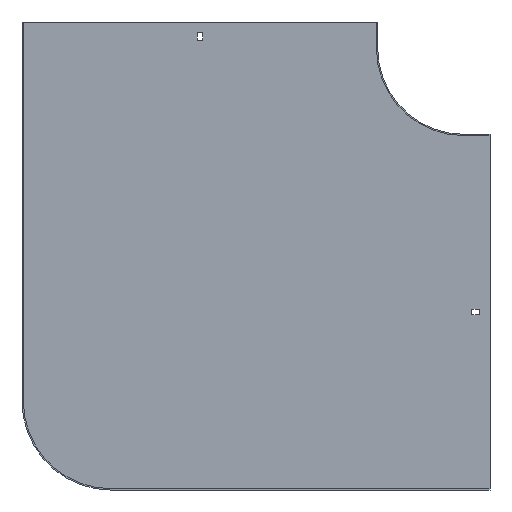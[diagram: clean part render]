
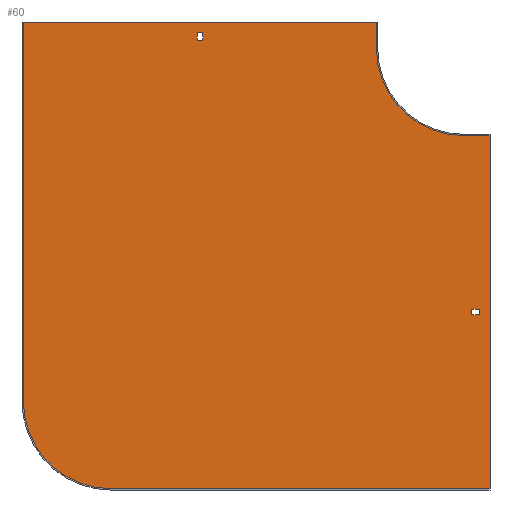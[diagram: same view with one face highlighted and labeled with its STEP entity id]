
A CAD part, front view. The second image highlights one B-rep face of the part: STEP entity #60.
In plain terms, the highlighted planar face has unit normal (0, -1, 0).
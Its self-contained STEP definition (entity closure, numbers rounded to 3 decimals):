
#1 = CARTESIAN_POINT ( 'NONE',  ( -305.25, -1.5, 9. ) ) ;
#3 = EDGE_CURVE ( 'NONE', #647, #610, #348, .T. ) ;
#4 = DIRECTION ( 'NONE',  ( -1., 0., 0. ) ) ;
#7 = CARTESIAN_POINT ( 'NONE',  ( 30., -1.5, -100. ) ) ;
#11 = DIRECTION ( 'NONE',  ( 0., 1., 0. ) ) ;
#27 = PLANE ( 'NONE',  #778 ) ;
#46 = VECTOR ( 'NONE', #410, 1000. ) ;
#48 = VERTEX_POINT ( 'NONE', #101 ) ;
#59 = ORIENTED_EDGE ( 'NONE', *, *, #236, .F. ) ;
#60 = ADVANCED_FACE ( 'NONE', ( #88, #570, #821 ), #27, .T. ) ;
#69 = CARTESIAN_POINT ( 'NONE',  ( 9., -1.5, 0. ) ) ;
#70 = CARTESIAN_POINT ( 'NONE',  ( -100., -1.5, 30. ) ) ;
#76 = DIRECTION ( 'NONE',  ( 0., 0., -1. ) ) ;
#79 = LINE ( 'NONE', #357, #429 ) ;
#88 = FACE_BOUND ( 'NONE', #777, .T. ) ;
#90 = DIRECTION ( 'NONE',  ( 1., 0., 0. ) ) ;
#92 = CARTESIAN_POINT ( 'NONE',  ( 0., -1.5, 0. ) ) ;
#95 = VECTOR ( 'NONE', #4, 1000. ) ;
#101 = CARTESIAN_POINT ( 'NONE',  ( -404., -1.5, -504. ) ) ;
#104 = ORIENTED_EDGE ( 'NONE', *, *, #394, .F. ) ;
#126 = CARTESIAN_POINT ( 'NONE',  ( 30., -1.5, -504. ) ) ;
#135 = EDGE_CURVE ( 'NONE', #810, #48, #331, .T. ) ;
#138 = VECTOR ( 'NONE', #311, 1000. ) ;
#144 = CARTESIAN_POINT ( 'NONE',  ( -100., -1.5, 30. ) ) ;
#147 = DIRECTION ( 'NONE',  ( 1., 0., 0. ) ) ;
#149 = LINE ( 'NONE', #70, #361 ) ;
#153 = EDGE_CURVE ( 'NONE', #501, #658, #513, .T. ) ;
#155 = VECTOR ( 'NONE', #725, 1000. ) ;
#156 = LINE ( 'NONE', #427, #767 ) ;
#168 = CARTESIAN_POINT ( 'NONE',  ( 30., -1.5, -98.5 ) ) ;
#175 = CARTESIAN_POINT ( 'NONE',  ( 0., -1.5, -305.25 ) ) ;
#177 = VECTOR ( 'NONE', #324, 1000. ) ;
#194 = CARTESIAN_POINT ( 'NONE',  ( -100., -1.5, 0. ) ) ;
#201 = EDGE_CURVE ( 'NONE', #48, #569, #372, .T. ) ;
#206 = DIRECTION ( 'NONE',  ( 0., 0., -1. ) ) ;
#208 = ORIENTED_EDGE ( 'NONE', *, *, #3, .F. ) ;
#209 = CARTESIAN_POINT ( 'NONE',  ( -404., -1.5, -404. ) ) ;
#215 = CARTESIAN_POINT ( 'NONE',  ( 0., -1.5, 0. ) ) ;
#236 = EDGE_CURVE ( 'NONE', #621, #731, #780, .T. ) ;
#241 = ORIENTED_EDGE ( 'NONE', *, *, #634, .T. ) ;
#255 = CARTESIAN_POINT ( 'NONE',  ( -305.25, -1.5, 0. ) ) ;
#261 = DIRECTION ( 'NONE',  ( 0., 0., -1. ) ) ;
#265 = ORIENTED_EDGE ( 'NONE', *, *, #625, .F. ) ;
#270 = VERTEX_POINT ( 'NONE', #194 ) ;
#271 = CARTESIAN_POINT ( 'NONE',  ( -298.75, -1.5, 0. ) ) ;
#274 = CARTESIAN_POINT ( 'NONE',  ( 0., -1.5, -100. ) ) ;
#289 = DIRECTION ( 'NONE',  ( 1., 0., 0. ) ) ;
#311 = DIRECTION ( 'NONE',  ( -1., 0., 0. ) ) ;
#315 = ORIENTED_EDGE ( 'NONE', *, *, #135, .F. ) ;
#322 = VECTOR ( 'NONE', #289, 1000. ) ;
#324 = DIRECTION ( 'NONE',  ( 0., 0., 1. ) ) ;
#331 = LINE ( 'NONE', #126, #138 ) ;
#344 = DIRECTION ( 'NONE',  ( 0., 0., -1. ) ) ;
#346 = EDGE_CURVE ( 'NONE', #658, #621, #477, .T. ) ;
#348 = LINE ( 'NONE', #274, #155 ) ;
#351 = VECTOR ( 'NONE', #76, 1000. ) ;
#352 = EDGE_CURVE ( 'NONE', #270, #647, #589, .T. ) ;
#353 = CARTESIAN_POINT ( 'NONE',  ( -305.25, -1.5, 18. ) ) ;
#357 = CARTESIAN_POINT ( 'NONE',  ( -505.5, -1.5, 30. ) ) ;
#358 = CARTESIAN_POINT ( 'NONE',  ( 9., -1.5, -305.25 ) ) ;
#361 = VECTOR ( 'NONE', #344, 1000. ) ;
#363 = CARTESIAN_POINT ( 'NONE',  ( 0., -1.5, -100. ) ) ;
#372 = CIRCLE ( 'NONE', #849, 100. ) ;
#384 = EDGE_CURVE ( 'NONE', #484, #531, #793, .T. ) ;
#389 = EDGE_LOOP ( 'NONE', ( #241, #547, #560, #836 ) ) ;
#391 = VERTEX_POINT ( 'NONE', #353 ) ;
#394 = EDGE_CURVE ( 'NONE', #397, #598, #79, .T. ) ;
#397 = VERTEX_POINT ( 'NONE', #421 ) ;
#407 = CARTESIAN_POINT ( 'NONE',  ( 0., -1.5, 9. ) ) ;
#410 = DIRECTION ( 'NONE',  ( -1., 0., 0. ) ) ;
#421 = CARTESIAN_POINT ( 'NONE',  ( -504., -1.5, 30. ) ) ;
#427 = CARTESIAN_POINT ( 'NONE',  ( 0., -1.5, 18. ) ) ;
#429 = VECTOR ( 'NONE', #147, 1000. ) ;
#432 = ORIENTED_EDGE ( 'NONE', *, *, #448, .F. ) ;
#438 = DIRECTION ( 'NONE',  ( 0., -1., 0. ) ) ;
#448 = EDGE_CURVE ( 'NONE', #731, #501, #818, .T. ) ;
#459 = AXIS2_PLACEMENT_3D ( 'NONE', #215, #859, #206 ) ;
#460 = LINE ( 'NONE', #255, #485 ) ;
#467 = ORIENTED_EDGE ( 'NONE', *, *, #201, .F. ) ;
#477 = LINE ( 'NONE', #659, #95 ) ;
#481 = ORIENTED_EDGE ( 'NONE', *, *, #676, .F. ) ;
#484 = VERTEX_POINT ( 'NONE', #693 ) ;
#485 = VECTOR ( 'NONE', #708, 1000. ) ;
#501 = VERTEX_POINT ( 'NONE', #532 ) ;
#508 = VECTOR ( 'NONE', #261, 1000. ) ;
#509 = EDGE_CURVE ( 'NONE', #692, #391, #460, .T. ) ;
#513 = LINE ( 'NONE', #845, #549 ) ;
#528 = EDGE_CURVE ( 'NONE', #569, #397, #717, .T. ) ;
#531 = VERTEX_POINT ( 'NONE', #789 ) ;
#532 = CARTESIAN_POINT ( 'NONE',  ( 18., -1.5, -305.25 ) ) ;
#547 = ORIENTED_EDGE ( 'NONE', *, *, #384, .T. ) ;
#549 = VECTOR ( 'NONE', #782, 1000. ) ;
#552 = ORIENTED_EDGE ( 'NONE', *, *, #352, .F. ) ;
#559 = LINE ( 'NONE', #168, #680 ) ;
#560 = ORIENTED_EDGE ( 'NONE', *, *, #604, .T. ) ;
#569 = VERTEX_POINT ( 'NONE', #857 ) ;
#570 = FACE_OUTER_BOUND ( 'NONE', #853, .T. ) ;
#589 = CIRCLE ( 'NONE', #459, 100. ) ;
#598 = VERTEX_POINT ( 'NONE', #144 ) ;
#604 = EDGE_CURVE ( 'NONE', #531, #692, #730, .T. ) ;
#605 = ORIENTED_EDGE ( 'NONE', *, *, #346, .F. ) ;
#610 = VERTEX_POINT ( 'NONE', #7 ) ;
#616 = ORIENTED_EDGE ( 'NONE', *, *, #528, .F. ) ;
#621 = VERTEX_POINT ( 'NONE', #743 ) ;
#625 = EDGE_CURVE ( 'NONE', #598, #270, #149, .T. ) ;
#634 = EDGE_CURVE ( 'NONE', #391, #484, #156, .T. ) ;
#646 = CARTESIAN_POINT ( 'NONE',  ( -504., -1.5, -404. ) ) ;
#647 = VERTEX_POINT ( 'NONE', #363 ) ;
#658 = VERTEX_POINT ( 'NONE', #678 ) ;
#659 = CARTESIAN_POINT ( 'NONE',  ( 0., -1.5, -298.75 ) ) ;
#668 = DIRECTION ( 'NONE',  ( 0., 0., -1. ) ) ;
#676 = EDGE_CURVE ( 'NONE', #610, #810, #559, .T. ) ;
#678 = CARTESIAN_POINT ( 'NONE',  ( 18., -1.5, -298.75 ) ) ;
#680 = VECTOR ( 'NONE', #809, 1000. ) ;
#692 = VERTEX_POINT ( 'NONE', #1 ) ;
#693 = CARTESIAN_POINT ( 'NONE',  ( -298.75, -1.5, 18. ) ) ;
#708 = DIRECTION ( 'NONE',  ( 0., 0., 1. ) ) ;
#717 = LINE ( 'NONE', #646, #177 ) ;
#725 = DIRECTION ( 'NONE',  ( 1., 0., 0. ) ) ;
#730 = LINE ( 'NONE', #407, #46 ) ;
#731 = VERTEX_POINT ( 'NONE', #358 ) ;
#743 = CARTESIAN_POINT ( 'NONE',  ( 9., -1.5, -298.75 ) ) ;
#753 = DIRECTION ( 'NONE',  ( 0., 0., -1. ) ) ;
#767 = VECTOR ( 'NONE', #90, 1000. ) ;
#777 = EDGE_LOOP ( 'NONE', ( #605, #863, #432, #59 ) ) ;
#778 = AXIS2_PLACEMENT_3D ( 'NONE', #92, #438, #753 ) ;
#780 = LINE ( 'NONE', #69, #508 ) ;
#782 = DIRECTION ( 'NONE',  ( 0., 0., 1. ) ) ;
#789 = CARTESIAN_POINT ( 'NONE',  ( -298.75, -1.5, 9. ) ) ;
#793 = LINE ( 'NONE', #271, #351 ) ;
#809 = DIRECTION ( 'NONE',  ( 0., 0., -1. ) ) ;
#810 = VERTEX_POINT ( 'NONE', #825 ) ;
#818 = LINE ( 'NONE', #175, #322 ) ;
#821 = FACE_BOUND ( 'NONE', #389, .T. ) ;
#825 = CARTESIAN_POINT ( 'NONE',  ( 30., -1.5, -504. ) ) ;
#836 = ORIENTED_EDGE ( 'NONE', *, *, #509, .T. ) ;
#845 = CARTESIAN_POINT ( 'NONE',  ( 18., -1.5, 0. ) ) ;
#849 = AXIS2_PLACEMENT_3D ( 'NONE', #209, #11, #668 ) ;
#853 = EDGE_LOOP ( 'NONE', ( #104, #616, #467, #315, #481, #208, #552, #265 ) ) ;
#857 = CARTESIAN_POINT ( 'NONE',  ( -504., -1.5, -404. ) ) ;
#859 = DIRECTION ( 'NONE',  ( 0., -1., 0. ) ) ;
#863 = ORIENTED_EDGE ( 'NONE', *, *, #153, .F. ) ;
